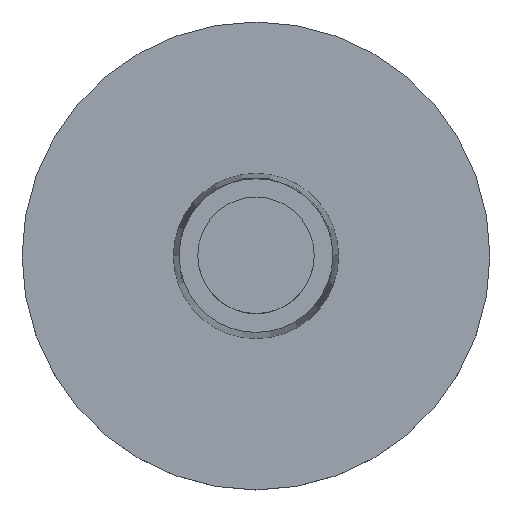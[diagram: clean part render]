
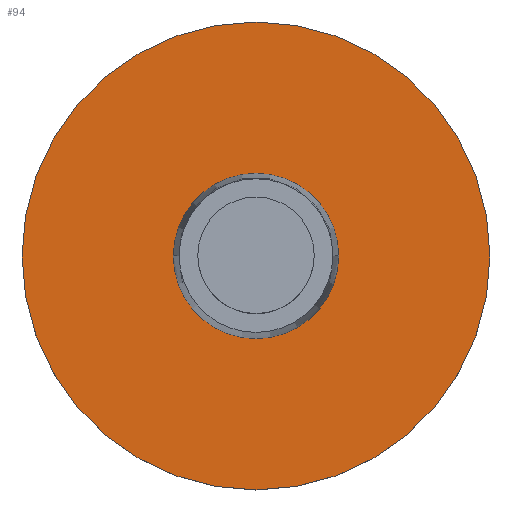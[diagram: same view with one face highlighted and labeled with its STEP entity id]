
A CAD part, top view. The second image highlights one B-rep face of the part: STEP entity #94.
In plain terms, the highlighted planar face has unit normal (0, 0, 1).
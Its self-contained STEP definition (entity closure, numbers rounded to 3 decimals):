
#1 = EDGE_CURVE ( 'NONE', #167, #289, #248, .T. ) ;
#11 = CIRCLE ( 'NONE', #215, 3.55 ) ;
#47 = AXIS2_PLACEMENT_3D ( 'NONE', #107, #365, #80 ) ;
#59 = CARTESIAN_POINT ( 'NONE',  ( 714.8, 409.15, 2.4 ) ) ;
#74 = DIRECTION ( 'NONE',  ( 0., 0., 1. ) ) ;
#75 = ORIENTED_EDGE ( 'NONE', *, *, #1, .T. ) ;
#80 = DIRECTION ( 'NONE',  ( 1., 0., 0. ) ) ;
#85 = ORIENTED_EDGE ( 'NONE', *, *, #276, .T. ) ;
#88 = FACE_OUTER_BOUND ( 'NONE', #282, .T. ) ;
#94 = ADVANCED_FACE ( 'NONE', ( #88, #136 ), #308, .T. ) ;
#96 = ORIENTED_EDGE ( 'NONE', *, *, #190, .T. ) ;
#107 = CARTESIAN_POINT ( 'NONE',  ( 711.25, 409.15, 2.4 ) ) ;
#112 = DIRECTION ( 'NONE',  ( -1., 0., 0. ) ) ;
#117 = CARTESIAN_POINT ( 'NONE',  ( 711.25, 409.15, 2.4 ) ) ;
#136 = FACE_BOUND ( 'NONE', #339, .T. ) ;
#142 = AXIS2_PLACEMENT_3D ( 'NONE', #236, #288, #112 ) ;
#164 = CARTESIAN_POINT ( 'NONE',  ( 711.25, 409.15, 2.4 ) ) ;
#167 = VERTEX_POINT ( 'NONE', #235 ) ;
#173 = EDGE_CURVE ( 'NONE', #289, #167, #271, .T. ) ;
#190 = EDGE_CURVE ( 'NONE', #257, #295, #11, .T. ) ;
#207 = DIRECTION ( 'NONE',  ( 0., 0., -1. ) ) ;
#215 = AXIS2_PLACEMENT_3D ( 'NONE', #117, #207, #268 ) ;
#233 = DIRECTION ( 'NONE',  ( 0., 0., 1. ) ) ;
#235 = CARTESIAN_POINT ( 'NONE',  ( 701.2, 409.15, 2.4 ) ) ;
#236 = CARTESIAN_POINT ( 'NONE',  ( 711.25, 409.15, 2.4 ) ) ;
#248 = CIRCLE ( 'NONE', #255, 10.05 ) ;
#255 = AXIS2_PLACEMENT_3D ( 'NONE', #164, #74, #302 ) ;
#257 = VERTEX_POINT ( 'NONE', #59 ) ;
#258 = DIRECTION ( 'NONE',  ( 1., 0., 0. ) ) ;
#264 = CARTESIAN_POINT ( 'NONE',  ( 721.3, 409.15, 2.4 ) ) ;
#268 = DIRECTION ( 'NONE',  ( -1., 0., 0. ) ) ;
#271 = CIRCLE ( 'NONE', #47, 10.05 ) ;
#273 = AXIS2_PLACEMENT_3D ( 'NONE', #280, #233, #258 ) ;
#276 = EDGE_CURVE ( 'NONE', #295, #257, #373, .T. ) ;
#280 = CARTESIAN_POINT ( 'NONE',  ( 721.3, 409.15, 2.4 ) ) ;
#282 = EDGE_LOOP ( 'NONE', ( #321, #75 ) ) ;
#288 = DIRECTION ( 'NONE',  ( 0., 0., -1. ) ) ;
#289 = VERTEX_POINT ( 'NONE', #264 ) ;
#295 = VERTEX_POINT ( 'NONE', #344 ) ;
#302 = DIRECTION ( 'NONE',  ( 1., 0., 0. ) ) ;
#308 = PLANE ( 'NONE',  #273 ) ;
#321 = ORIENTED_EDGE ( 'NONE', *, *, #173, .T. ) ;
#339 = EDGE_LOOP ( 'NONE', ( #85, #96 ) ) ;
#344 = CARTESIAN_POINT ( 'NONE',  ( 707.7, 409.15, 2.4 ) ) ;
#365 = DIRECTION ( 'NONE',  ( 0., 0., 1. ) ) ;
#373 = CIRCLE ( 'NONE', #142, 3.55 ) ;
